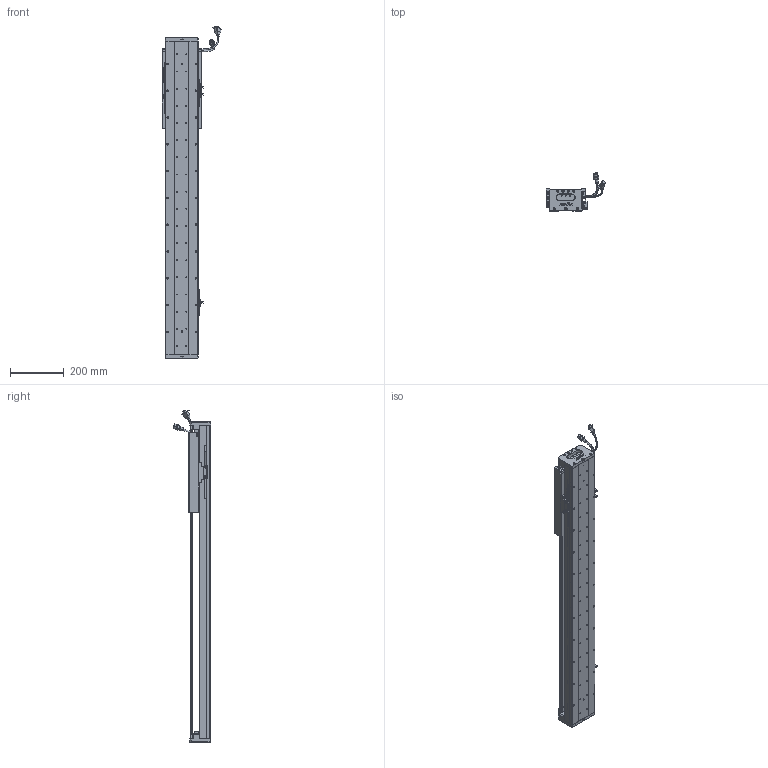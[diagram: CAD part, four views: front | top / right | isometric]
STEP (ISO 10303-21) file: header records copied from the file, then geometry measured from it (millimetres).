
FILE_DESCRIPTION (( 'STEP AP203' ), '1' );
FILE_NAME ('Z4-RY120D-1-L500-B-K.SLDASM_0800.step', '2021-05-17T06:06:36', ( '盈信电脑' ), ( '东莞市道滘镇水果街19号' ), 'SwSTEP 2.0', 'SolidWorks 2016', '' );
FILE_SCHEMA (( 'CONFIG_CONTROL_DESIGN' ));
Length unit declared in the file: millimetre
Products named in the file (37): SHIELDPLATE; SCREW-M1.7-1; 120-Z-臏賑輸盄裔(21遴); SEAL-Part-1; Z4-RY120-500-倰第菁釱_0800; HOLDER0; RY100FB-遵嫖萇覜茼え; PSLH080_PSLF2; SCREW-M1.6; SCALE-Part-1; HARNESS-Part-1; Z4-RY120-L500詩湍100mm遵_0800; LABEL-Part-1; SCREW-M1.7; HARNESS-Part-2; SCREW-M1.6-1; 覜茼ん672; LABEL; Z-120詩湍傷裔啣; 080黍杅芛假蚾釱21遴; 140蚥薯蝶輸; SEAL; Z-RY120D詩湍奻揤裔; HARNESS; SCALE; Z4-RY120D-1-L500-B-K.SLDASM_0800; COVER; Z-RY120D詩湍狟揤裔; SCREW-M1.6-2; Z4-RY120铝滑块（21款）; PBU_SHEET; COVER-Part-1; 672嫖萇羲壽假蚾釱; SCREW-M1.6-3; 榋妏寠巭燃_暯_M2_2; 140雄赽晤鎢ん堤盄; SCALE-Part-2
Assembly tree (43 placements, depth 4):
  Z4-RY120D-1-L500-B-K.SLDASM_0800
    Z4-RY120-500-倰第菁釱_0800
    覜茼ん672  x3
    672嫖萇羲壽假蚾釱  x2
    Z4-RY120铝滑块（21款）
    PSLH080_PSLF2
      SCALE
        SCALE-Part-1
        SCALE-Part-2
      HARNESS
        HARNESS-Part-1
        HARNESS-Part-2
      LABEL
        LABEL-Part-1
      COVER
        COVER-Part-1
      SEAL
        SEAL-Part-1
      榋妏寠巭燃_暯_M2_2
      SHIELDPLATE
      SCREW-M1.7
      SCREW-M1.7-1
      PBU_SHEET
      SCREW-M1.6
      SCREW-M1.6-1
      SCREW-M1.6-2
      SCREW-M1.6-3
      HOLDER0
    080黍杅芛假蚾釱21遴
    120-Z-臏賑輸盄裔(21遴)
    140雄赽晤鎢ん堤盄
    140蚥薯蝶輸  x2
    RY100FB-遵嫖萇覜茼え
    Z-120詩湍傷裔啣  x2
    Z-RY120D詩湍奻揤裔  x2
    Z-RY120D詩湍狟揤裔  x2
    Z4-RY120-L500詩湍100mm遵_0800
Bounding box: 222.87 x 140.94 x 1239 mm (x, y, z)
Volume: 3567097.4 mm3; surface area: 1164684.7 mm2
Topology: 38 solids, 38 shells, 2881 faces, 7818 edges, 4934 vertices
Faces by surface type: cylinder 1340, plane 1129, cone 290, torus 69, bspline 53
Entity records: 87401 total; most frequent: CARTESIAN_POINT 23562, ORIENTED_EDGE 12580, DIRECTION 12322, EDGE_CURVE 6290, AXIS2_PLACEMENT_3D 4520, VERTEX_POINT 4054, LINE 3282, VECTOR 3282
